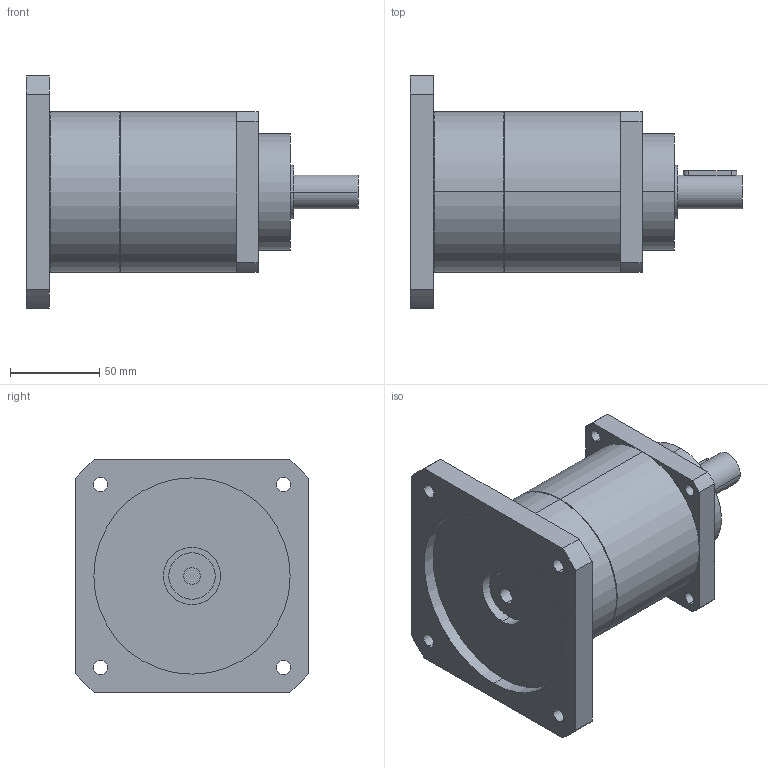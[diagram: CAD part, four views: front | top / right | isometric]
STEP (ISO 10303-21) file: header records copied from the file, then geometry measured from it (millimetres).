
FILE_DESCRIPTION(('CoCreate Modeling STEP Export'),'2;1');
FILE_NAME('GPT90_ig-9-12-16-20-25-28-35-40-50-70-100_19_B5T_9.525_P33.stp','2015-02-04T11:35:26',(''),(''),'CoCreate Modeling STEP processor for AP214 (Solid Model)','CoCreate Modeling 16.00C 25-Feb-2009 (C) Parametric Technology GmbH','');
FILE_SCHEMA(('AUTOMOTIVE_DESIGN { 1 0 10303 214 1 1 1 1 }'));
Length unit declared in the file: millimetre
Products named in the file (2): GPT90_ig-9-12-16-20-25-28-35-40-50-70-100_19_B5T_9.525_P33
Assembly tree (1 placements, depth 2):
  GPT90_ig-9-12-16-20-25-28-35-40-50-70-100_19_B5T_9.525_P33
    GPT90_ig-9-12-16-20-25-28-35-40-50-70-100_19_B5T_9.525_P33
Bounding box: 186 x 130 x 130 mm (x, y, z)
Volume: 976240.3 mm3; surface area: 89951.8 mm2
Topology: 1 solids, 1 shells, 77 faces, 206 edges, 141 vertices
Faces by surface type: cylinder 46, plane 27, cone 4
Entity records: 2596 total; most frequent: CARTESIAN_POINT 742, ORIENTED_EDGE 412, DIRECTION 324, EDGE_CURVE 206, VERTEX_POINT 141, AXIS2_PLACEMENT_3D 120, EDGE_LOOP 103, VECTOR 84
